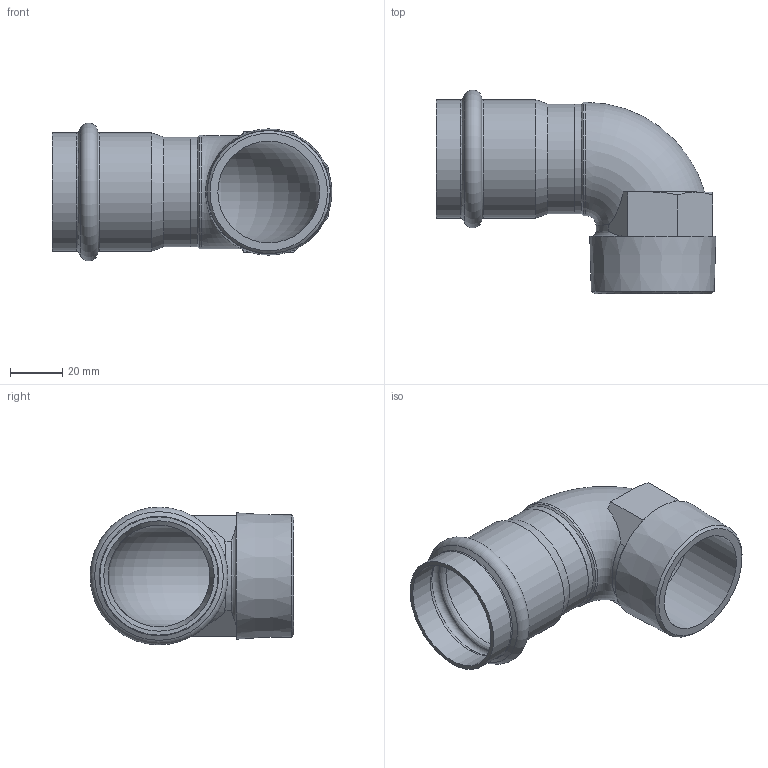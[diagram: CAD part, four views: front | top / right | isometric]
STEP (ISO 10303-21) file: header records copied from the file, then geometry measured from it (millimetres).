
FILE_DESCRIPTION((''),'2;1');
FILE_NAME('G:\Technics\CAD\Bauteile\042\69092AG42112(1).stp','2008-03-04T09:53:54',('herberg'),(''),'Autodesk Inventor 2008','Autodesk Inventor 2008','');
FILE_SCHEMA(('AUTOMOTIVE_DESIGN { 1 0 10303 214 1 1 1 1 }'));
Length unit declared in the file: millimetre
Products named in the file (3): 69092AG42112(1); G_69092AG42112(1); HM_6924342(2)
Assembly tree (2 placements, depth 2):
  69092AG42112(1)
    G_69092AG42112(1)
    HM_6924342(2)
Bounding box: 107.19 x 78.09 x 52.79 mm (x, y, z)
Volume: 41902.8 mm3; surface area: 36003.3 mm2
Topology: 2 solids, 2 shells, 61 faces, 143 edges, 86 vertices
Faces by surface type: plane 25, cone 11, bspline 11, cylinder 10, torus 4
Full cylindrical faces by diameter (mm): 39 x2, 42 x2, 42.3 x2, 43.4 x1, 45.3 x2
Entity records: 2148 total; most frequent: CARTESIAN_POINT 858, DIRECTION 254, ORIENTED_EDGE 226, EDGE_CURVE 113, AXIS2_PLACEMENT_3D 108, EDGE_LOOP 90, VERTEX_POINT 81, FACE_OUTER_BOUND 61
